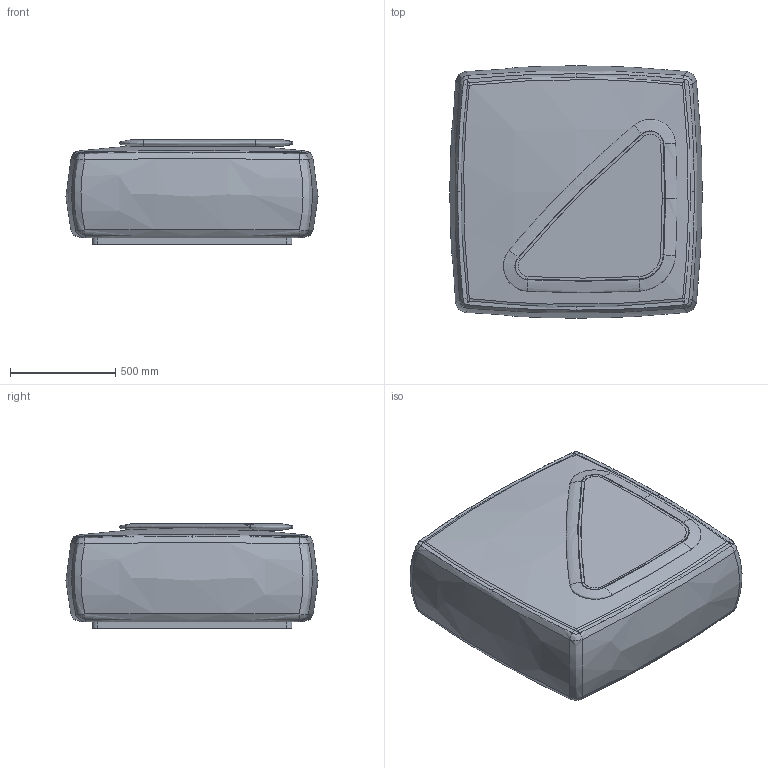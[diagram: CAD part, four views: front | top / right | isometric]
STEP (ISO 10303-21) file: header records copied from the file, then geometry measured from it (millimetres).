
FILE_DESCRIPTION(/* description */ (''),/* implementation_level */ '2;1');
FILE_NAME(/* name */ 'SCENE_~2',/* time_stamp */ '2022-02-15T21:57:49+09:00',/* author */ (''),/* organization */ (''),/* preprocessor_version */ 'ST-DEVELOPER v16.5',/* originating_system */ '',/* authorisation */ '');
FILE_SCHEMA (('CONFIG_CONTROL_DESIGN'));
Length unit declared in the file: millimetre
Products named in the file (1): Document
Bounding box: 1200 x 1200 x 496.25 mm (x, y, z)
Volume: 608467297.1 mm3; surface area: 8729416.3 mm2
Topology: 6 solids, 7 shells, 197 faces, 411 edges, 224 vertices
Faces by surface type: bspline 156, cylinder 28, plane 13
Entity records: 10336 total; most frequent: CARTESIAN_POINT 7802, ORIENTED_EDGE 806, EDGE_CURVE 411, VERTEX_POINT 224, B_SPLINE_CURVE_WITH_KNOTS 199, ADVANCED_FACE 197, FACE_OUTER_BOUND 197, EDGE_LOOP 197
